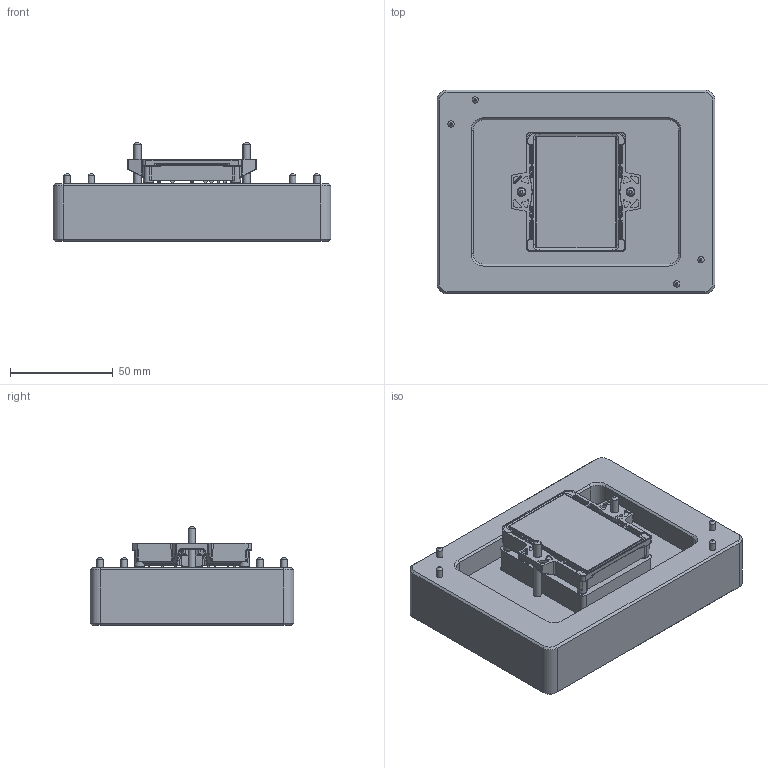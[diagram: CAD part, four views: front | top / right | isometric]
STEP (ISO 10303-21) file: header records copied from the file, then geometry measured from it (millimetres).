
FILE_DESCRIPTION(/* description */ ('Unknown','CAx-IF Rec.Pracs.---Representation and Presentation of Product Manufacturing Information (PMI)---4.0---2014-10-13','CAx-IF Rec.Pracs.---3D Tessellated Geometry---0.4---2014-09-14','2;1'),/* implementation_level */ '2;1');
FILE_NAME(/* name */ 'flowE2-Bottom',/* time_stamp */ '2026-01-13T13:43:05+01:00',/* author */ ('Unknown'),/* organization */ ('Unknown'),/* preprocessor_version */ 'ST-DEVELOPER v20',/* originating_system */ 'Solid Edge',/* authorisation */ 'Unknown');
FILE_SCHEMA (('AP242_MANAGED_MODEL_BASED_3D_ENGINEERING_MIM_LF { 1 0 10303 442 1 1 4 }'));
Products named in the file (5): L030; bottom_ex; poz_csap; poz_csap_nyak; module
Assembly tree (8 placements, depth 2):
  L030
    bottom_ex
    poz_csap  x2
    poz_csap_nyak  x4
    module
Bounding box: 135 x 99 x 48 mm (x, y, z)
Volume: 347426 mm3; surface area: 62013.6 mm2
Topology: 8 solids, 8 shells, 4293 faces, 10562 edges, 6515 vertices
Faces by surface type: plane 2203, cylinder 1191, cone 734, bspline 119, torus 28, sphere 18
Full cylindrical faces by diameter (mm): 3 x24, 3.5 x2, 4.3 x2, 6.05 x2, 7 x1
Entity records: 155235 total; most frequent: CARTESIAN_POINT 24095, DIRECTION 21836, ORIENTED_EDGE 20908, EDGE_CURVE 10454, AXIS2_PLACEMENT_3D 7478, LINE 6880, VECTOR 6880, VERTEX_POINT 6482
